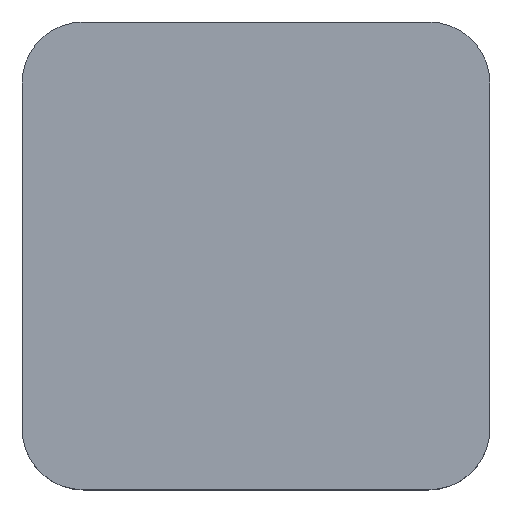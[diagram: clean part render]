
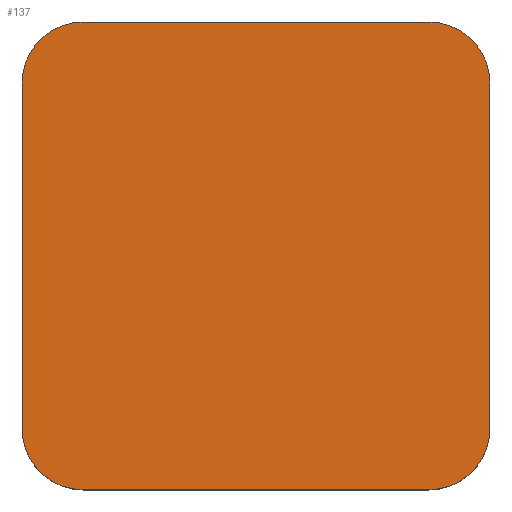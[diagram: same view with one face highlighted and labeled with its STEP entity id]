
A CAD part, top view. The second image highlights one B-rep face of the part: STEP entity #137.
In plain terms, the highlighted planar face has unit normal (0, 0, 1).
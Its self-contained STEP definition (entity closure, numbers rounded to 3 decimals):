
#21 = EDGE_CURVE('',#22,#24,#26,.T.);
#22 = VERTEX_POINT('',#23);
#23 = CARTESIAN_POINT('',(-23.,-17.,15.));
#24 = VERTEX_POINT('',#25);
#25 = CARTESIAN_POINT('',(-23.,17.,15.));
#26 = SURFACE_CURVE('',#27,(#31,#43),.PCURVE_S1.);
#27 = LINE('',#28,#29);
#28 = CARTESIAN_POINT('',(-23.,-23.,15.));
#29 = VECTOR('',#30,1.);
#30 = DIRECTION('',(0.,1.,0.));
#31 = PCURVE('',#32,#37);
#32 = PLANE('',#33);
#33 = AXIS2_PLACEMENT_3D('',#34,#35,#36);
#34 = CARTESIAN_POINT('',(-23.,-23.,0.));
#35 = DIRECTION('',(1.,0.,0.));
#36 = DIRECTION('',(0.,0.,1.));
#37 = DEFINITIONAL_REPRESENTATION('',(#38),#42);
#38 = LINE('',#39,#40);
#39 = CARTESIAN_POINT('',(15.,0.));
#40 = VECTOR('',#41,1.);
#41 = DIRECTION('',(0.,-1.));
#42 = ( GEOMETRIC_REPRESENTATION_CONTEXT(2) 
PARAMETRIC_REPRESENTATION_CONTEXT() REPRESENTATION_CONTEXT('2D SPACE',''
  ) );
#43 = PCURVE('',#44,#49);
#44 = PLANE('',#45);
#45 = AXIS2_PLACEMENT_3D('',#46,#47,#48);
#46 = CARTESIAN_POINT('',(-23.,-23.,15.));
#47 = DIRECTION('',(0.,0.,1.));
#48 = DIRECTION('',(1.,0.,0.));
#49 = DEFINITIONAL_REPRESENTATION('',(#50),#54);
#50 = LINE('',#51,#52);
#51 = CARTESIAN_POINT('',(0.,0.));
#52 = VECTOR('',#53,1.);
#53 = DIRECTION('',(0.,1.));
#54 = ( GEOMETRIC_REPRESENTATION_CONTEXT(2) 
PARAMETRIC_REPRESENTATION_CONTEXT() REPRESENTATION_CONTEXT('2D SPACE',''
  ) );
#72 = CYLINDRICAL_SURFACE('',#73,6.);
#73 = AXIS2_PLACEMENT_3D('',#74,#75,#76);
#74 = CARTESIAN_POINT('',(-17.,-17.,0.));
#75 = DIRECTION('',(0.,0.,1.));
#76 = DIRECTION('',(-1.,-0.,0.));
#126 = CYLINDRICAL_SURFACE('',#127,6.);
#127 = AXIS2_PLACEMENT_3D('',#128,#129,#130);
#128 = CARTESIAN_POINT('',(-17.,17.,0.));
#129 = DIRECTION('',(0.,0.,1.));
#130 = DIRECTION('',(-1.,-0.,0.));
#137 = ADVANCED_FACE('',(#138),#44,.T.);
#138 = FACE_BOUND('',#139,.T.);
#139 = EDGE_LOOP('',(#140,#141,#165,#193,#226,#254,#283,#311));
#140 = ORIENTED_EDGE('',*,*,#21,.F.);
#141 = ORIENTED_EDGE('',*,*,#142,.T.);
#142 = EDGE_CURVE('',#22,#143,#145,.T.);
#143 = VERTEX_POINT('',#144);
#144 = CARTESIAN_POINT('',(-17.,-23.,15.));
#145 = SURFACE_CURVE('',#146,(#151,#158),.PCURVE_S1.);
#146 = CIRCLE('',#147,6.);
#147 = AXIS2_PLACEMENT_3D('',#148,#149,#150);
#148 = CARTESIAN_POINT('',(-17.,-17.,15.));
#149 = DIRECTION('',(0.,0.,1.));
#150 = DIRECTION('',(0.,-1.,0.));
#151 = PCURVE('',#44,#152);
#152 = DEFINITIONAL_REPRESENTATION('',(#153),#157);
#153 = CIRCLE('',#154,6.);
#154 = AXIS2_PLACEMENT_2D('',#155,#156);
#155 = CARTESIAN_POINT('',(6.,6.));
#156 = DIRECTION('',(0.,-1.));
#157 = ( GEOMETRIC_REPRESENTATION_CONTEXT(2) 
PARAMETRIC_REPRESENTATION_CONTEXT() REPRESENTATION_CONTEXT('2D SPACE',''
  ) );
#158 = PCURVE('',#72,#159);
#159 = DEFINITIONAL_REPRESENTATION('',(#160),#164);
#160 = LINE('',#161,#162);
#161 = CARTESIAN_POINT('',(-4.712,15.));
#162 = VECTOR('',#163,1.);
#163 = DIRECTION('',(1.,0.));
#164 = ( GEOMETRIC_REPRESENTATION_CONTEXT(2) 
PARAMETRIC_REPRESENTATION_CONTEXT() REPRESENTATION_CONTEXT('2D SPACE',''
  ) );
#165 = ORIENTED_EDGE('',*,*,#166,.T.);
#166 = EDGE_CURVE('',#143,#167,#169,.T.);
#167 = VERTEX_POINT('',#168);
#168 = CARTESIAN_POINT('',(17.,-23.,15.));
#169 = SURFACE_CURVE('',#170,(#174,#181),.PCURVE_S1.);
#170 = LINE('',#171,#172);
#171 = CARTESIAN_POINT('',(-23.,-23.,15.));
#172 = VECTOR('',#173,1.);
#173 = DIRECTION('',(1.,0.,0.));
#174 = PCURVE('',#44,#175);
#175 = DEFINITIONAL_REPRESENTATION('',(#176),#180);
#176 = LINE('',#177,#178);
#177 = CARTESIAN_POINT('',(0.,0.));
#178 = VECTOR('',#179,1.);
#179 = DIRECTION('',(1.,0.));
#180 = ( GEOMETRIC_REPRESENTATION_CONTEXT(2) 
PARAMETRIC_REPRESENTATION_CONTEXT() REPRESENTATION_CONTEXT('2D SPACE',''
  ) );
#181 = PCURVE('',#182,#187);
#182 = PLANE('',#183);
#183 = AXIS2_PLACEMENT_3D('',#184,#185,#186);
#184 = CARTESIAN_POINT('',(-23.,-23.,0.));
#185 = DIRECTION('',(0.,1.,0.));
#186 = DIRECTION('',(0.,0.,1.));
#187 = DEFINITIONAL_REPRESENTATION('',(#188),#192);
#188 = LINE('',#189,#190);
#189 = CARTESIAN_POINT('',(15.,0.));
#190 = VECTOR('',#191,1.);
#191 = DIRECTION('',(0.,1.));
#192 = ( GEOMETRIC_REPRESENTATION_CONTEXT(2) 
PARAMETRIC_REPRESENTATION_CONTEXT() REPRESENTATION_CONTEXT('2D SPACE',''
  ) );
#193 = ORIENTED_EDGE('',*,*,#194,.F.);
#194 = EDGE_CURVE('',#195,#167,#197,.T.);
#195 = VERTEX_POINT('',#196);
#196 = CARTESIAN_POINT('',(23.,-17.,15.));
#197 = SURFACE_CURVE('',#198,(#203,#214),.PCURVE_S1.);
#198 = CIRCLE('',#199,6.);
#199 = AXIS2_PLACEMENT_3D('',#200,#201,#202);
#200 = CARTESIAN_POINT('',(17.,-17.,15.));
#201 = DIRECTION('',(-0.,-0.,-1.));
#202 = DIRECTION('',(0.,-1.,0.));
#203 = PCURVE('',#44,#204);
#204 = DEFINITIONAL_REPRESENTATION('',(#205),#213);
#205 = ( BOUNDED_CURVE() B_SPLINE_CURVE(2,(#206,#207,#208,#209,#210,#211
,#212),.UNSPECIFIED.,.T.,.F.) B_SPLINE_CURVE_WITH_KNOTS((1,2,2,2,2,1),(
    -2.094,0.,2.094,4.189,6.283,
8.378),.UNSPECIFIED.) CURVE() GEOMETRIC_REPRESENTATION_ITEM() 
RATIONAL_B_SPLINE_CURVE((1.,0.5,1.,0.5,1.,0.5,1.)) REPRESENTATION_ITEM(
  '') );
#206 = CARTESIAN_POINT('',(40.,0.));
#207 = CARTESIAN_POINT('',(29.608,0.));
#208 = CARTESIAN_POINT('',(34.804,9.));
#209 = CARTESIAN_POINT('',(40.,18.));
#210 = CARTESIAN_POINT('',(45.196,9.));
#211 = CARTESIAN_POINT('',(50.392,0.));
#212 = CARTESIAN_POINT('',(40.,0.));
#213 = ( GEOMETRIC_REPRESENTATION_CONTEXT(2) 
PARAMETRIC_REPRESENTATION_CONTEXT() REPRESENTATION_CONTEXT('2D SPACE',''
  ) );
#214 = PCURVE('',#215,#220);
#215 = CYLINDRICAL_SURFACE('',#216,6.);
#216 = AXIS2_PLACEMENT_3D('',#217,#218,#219);
#217 = CARTESIAN_POINT('',(17.,-17.,0.));
#218 = DIRECTION('',(0.,0.,1.));
#219 = DIRECTION('',(1.,0.,-0.));
#220 = DEFINITIONAL_REPRESENTATION('',(#221),#225);
#221 = LINE('',#222,#223);
#222 = CARTESIAN_POINT('',(4.712,15.));
#223 = VECTOR('',#224,1.);
#224 = DIRECTION('',(-1.,0.));
#225 = ( GEOMETRIC_REPRESENTATION_CONTEXT(2) 
PARAMETRIC_REPRESENTATION_CONTEXT() REPRESENTATION_CONTEXT('2D SPACE',''
  ) );
#226 = ORIENTED_EDGE('',*,*,#227,.T.);
#227 = EDGE_CURVE('',#195,#228,#230,.T.);
#228 = VERTEX_POINT('',#229);
#229 = CARTESIAN_POINT('',(23.,17.,15.));
#230 = SURFACE_CURVE('',#231,(#235,#242),.PCURVE_S1.);
#231 = LINE('',#232,#233);
#232 = CARTESIAN_POINT('',(23.,-23.,15.));
#233 = VECTOR('',#234,1.);
#234 = DIRECTION('',(0.,1.,0.));
#235 = PCURVE('',#44,#236);
#236 = DEFINITIONAL_REPRESENTATION('',(#237),#241);
#237 = LINE('',#238,#239);
#238 = CARTESIAN_POINT('',(46.,0.));
#239 = VECTOR('',#240,1.);
#240 = DIRECTION('',(0.,1.));
#241 = ( GEOMETRIC_REPRESENTATION_CONTEXT(2) 
PARAMETRIC_REPRESENTATION_CONTEXT() REPRESENTATION_CONTEXT('2D SPACE',''
  ) );
#242 = PCURVE('',#243,#248);
#243 = PLANE('',#244);
#244 = AXIS2_PLACEMENT_3D('',#245,#246,#247);
#245 = CARTESIAN_POINT('',(23.,-23.,0.));
#246 = DIRECTION('',(1.,0.,0.));
#247 = DIRECTION('',(0.,0.,1.));
#248 = DEFINITIONAL_REPRESENTATION('',(#249),#253);
#249 = LINE('',#250,#251);
#250 = CARTESIAN_POINT('',(15.,0.));
#251 = VECTOR('',#252,1.);
#252 = DIRECTION('',(0.,-1.));
#253 = ( GEOMETRIC_REPRESENTATION_CONTEXT(2) 
PARAMETRIC_REPRESENTATION_CONTEXT() REPRESENTATION_CONTEXT('2D SPACE',''
  ) );
#254 = ORIENTED_EDGE('',*,*,#255,.T.);
#255 = EDGE_CURVE('',#228,#256,#258,.T.);
#256 = VERTEX_POINT('',#257);
#257 = CARTESIAN_POINT('',(17.,23.,15.));
#258 = SURFACE_CURVE('',#259,(#264,#271),.PCURVE_S1.);
#259 = CIRCLE('',#260,6.);
#260 = AXIS2_PLACEMENT_3D('',#261,#262,#263);
#261 = CARTESIAN_POINT('',(17.,17.,15.));
#262 = DIRECTION('',(0.,0.,1.));
#263 = DIRECTION('',(0.,-1.,0.));
#264 = PCURVE('',#44,#265);
#265 = DEFINITIONAL_REPRESENTATION('',(#266),#270);
#266 = CIRCLE('',#267,6.);
#267 = AXIS2_PLACEMENT_2D('',#268,#269);
#268 = CARTESIAN_POINT('',(40.,40.));
#269 = DIRECTION('',(0.,-1.));
#270 = ( GEOMETRIC_REPRESENTATION_CONTEXT(2) 
PARAMETRIC_REPRESENTATION_CONTEXT() REPRESENTATION_CONTEXT('2D SPACE',''
  ) );
#271 = PCURVE('',#272,#277);
#272 = CYLINDRICAL_SURFACE('',#273,6.);
#273 = AXIS2_PLACEMENT_3D('',#274,#275,#276);
#274 = CARTESIAN_POINT('',(17.,17.,0.));
#275 = DIRECTION('',(0.,0.,1.));
#276 = DIRECTION('',(1.,0.,-0.));
#277 = DEFINITIONAL_REPRESENTATION('',(#278),#282);
#278 = LINE('',#279,#280);
#279 = CARTESIAN_POINT('',(-1.571,15.));
#280 = VECTOR('',#281,1.);
#281 = DIRECTION('',(1.,0.));
#282 = ( GEOMETRIC_REPRESENTATION_CONTEXT(2) 
PARAMETRIC_REPRESENTATION_CONTEXT() REPRESENTATION_CONTEXT('2D SPACE',''
  ) );
#283 = ORIENTED_EDGE('',*,*,#284,.F.);
#284 = EDGE_CURVE('',#285,#256,#287,.T.);
#285 = VERTEX_POINT('',#286);
#286 = CARTESIAN_POINT('',(-17.,23.,15.));
#287 = SURFACE_CURVE('',#288,(#292,#299),.PCURVE_S1.);
#288 = LINE('',#289,#290);
#289 = CARTESIAN_POINT('',(-23.,23.,15.));
#290 = VECTOR('',#291,1.);
#291 = DIRECTION('',(1.,0.,0.));
#292 = PCURVE('',#44,#293);
#293 = DEFINITIONAL_REPRESENTATION('',(#294),#298);
#294 = LINE('',#295,#296);
#295 = CARTESIAN_POINT('',(0.,46.));
#296 = VECTOR('',#297,1.);
#297 = DIRECTION('',(1.,0.));
#298 = ( GEOMETRIC_REPRESENTATION_CONTEXT(2) 
PARAMETRIC_REPRESENTATION_CONTEXT() REPRESENTATION_CONTEXT('2D SPACE',''
  ) );
#299 = PCURVE('',#300,#305);
#300 = PLANE('',#301);
#301 = AXIS2_PLACEMENT_3D('',#302,#303,#304);
#302 = CARTESIAN_POINT('',(-23.,23.,0.));
#303 = DIRECTION('',(0.,1.,0.));
#304 = DIRECTION('',(0.,0.,1.));
#305 = DEFINITIONAL_REPRESENTATION('',(#306),#310);
#306 = LINE('',#307,#308);
#307 = CARTESIAN_POINT('',(15.,0.));
#308 = VECTOR('',#309,1.);
#309 = DIRECTION('',(0.,1.));
#310 = ( GEOMETRIC_REPRESENTATION_CONTEXT(2) 
PARAMETRIC_REPRESENTATION_CONTEXT() REPRESENTATION_CONTEXT('2D SPACE',''
  ) );
#311 = ORIENTED_EDGE('',*,*,#312,.F.);
#312 = EDGE_CURVE('',#24,#285,#313,.T.);
#313 = SURFACE_CURVE('',#314,(#319,#330),.PCURVE_S1.);
#314 = CIRCLE('',#315,6.);
#315 = AXIS2_PLACEMENT_3D('',#316,#317,#318);
#316 = CARTESIAN_POINT('',(-17.,17.,15.));
#317 = DIRECTION('',(-0.,-0.,-1.));
#318 = DIRECTION('',(0.,-1.,0.));
#319 = PCURVE('',#44,#320);
#320 = DEFINITIONAL_REPRESENTATION('',(#321),#329);
#321 = ( BOUNDED_CURVE() B_SPLINE_CURVE(2,(#322,#323,#324,#325,#326,#327
,#328),.UNSPECIFIED.,.T.,.F.) B_SPLINE_CURVE_WITH_KNOTS((1,2,2,2,2,1),(
    -2.094,0.,2.094,4.189,6.283,
8.378),.UNSPECIFIED.) CURVE() GEOMETRIC_REPRESENTATION_ITEM() 
RATIONAL_B_SPLINE_CURVE((1.,0.5,1.,0.5,1.,0.5,1.)) REPRESENTATION_ITEM(
  '') );
#322 = CARTESIAN_POINT('',(6.,34.));
#323 = CARTESIAN_POINT('',(-4.392,34.));
#324 = CARTESIAN_POINT('',(0.804,43.));
#325 = CARTESIAN_POINT('',(6.,52.));
#326 = CARTESIAN_POINT('',(11.196,43.));
#327 = CARTESIAN_POINT('',(16.392,34.));
#328 = CARTESIAN_POINT('',(6.,34.));
#329 = ( GEOMETRIC_REPRESENTATION_CONTEXT(2) 
PARAMETRIC_REPRESENTATION_CONTEXT() REPRESENTATION_CONTEXT('2D SPACE',''
  ) );
#330 = PCURVE('',#126,#331);
#331 = DEFINITIONAL_REPRESENTATION('',(#332),#336);
#332 = LINE('',#333,#334);
#333 = CARTESIAN_POINT('',(1.571,15.));
#334 = VECTOR('',#335,1.);
#335 = DIRECTION('',(-1.,0.));
#336 = ( GEOMETRIC_REPRESENTATION_CONTEXT(2) 
PARAMETRIC_REPRESENTATION_CONTEXT() REPRESENTATION_CONTEXT('2D SPACE',''
  ) );
